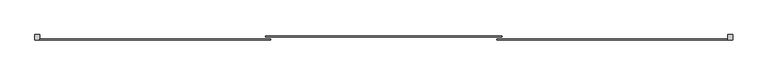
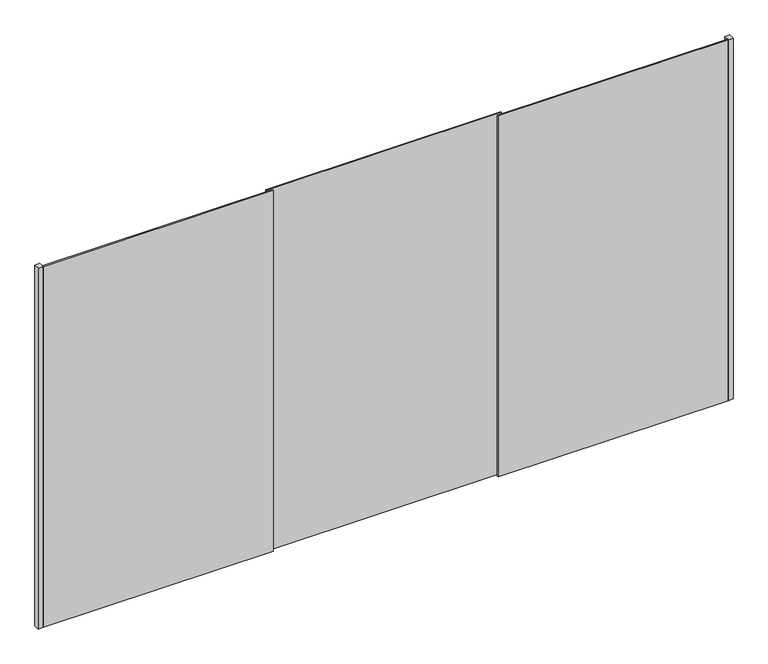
"""IFC4 building model written with IfcOpenShell, lengths in millimetres: furniture geometry, Puerta Closet corre 3 hojas : Puerta corrdiza 3 hojas PCLE-04."""

from ifc_helpers import new_model, si_unit, origin, origin_with_axes, place, context, project, spatial, polyline, outline, extrude, source, transform, mapped, element, save


def furniture_cfb692ec(model_context):
    return source(origin(), model_context, "Body", "SweptSolid", [
        extrude(outline(polyline([(2900.0, 86.6666667), (2870.0, 86.6666667), (2870.0, 120.0), (2900.0, 120.0), (2900.0, 86.6666667)])), origin_with_axes(), (0.0, 0.0, 1.0), 2300.0),
        extrude(outline(polyline([(2870.0, 86.6666667), (1483.3333333, 86.6666667), (1483.3333333, 93.3333333), (2870.0, 93.3333333), (2870.0, 86.6666667)])), origin_with_axes(), (0.0, 0.0, 1.0), 2300.0),
        extrude(outline(polyline([(1513.3333333, 106.6666667), (96.6666667, 106.6666667), (96.6666667, 113.3333333), (1513.3333333, 113.3333333), (1513.3333333, 106.6666667)])), origin_with_axes(), (0.0, 0.0, 1.0), 2300.0),
        extrude(outline(polyline([(126.6666667, 86.6666667), (-1260.0, 86.6666667), (-1260.0, 93.3333333), (126.6666667, 93.3333333), (126.6666667, 86.6666667)])), origin_with_axes(), (0.0, 0.0, 1.0), 2300.0),
        extrude(outline(polyline([(-1290.0, 86.6666667), (-1290.0, 120.0), (-1260.0, 120.0), (-1260.0, 86.6666667), (-1290.0, 86.6666667)])), origin_with_axes(), (0.0, 0.0, 1.0), 2300.0),
    ])


if __name__ == "__main__":
    model = new_model("IFC4")
    model_context = context("Model", 3, world=origin())
    ifc_project = project(units=[si_unit("LENGTHUNIT", "METRE", prefix="MILLI")], contexts=[model_context])
    site = spatial("IfcSite", under=ifc_project)
    building = spatial("IfcBuilding", under=site)
    placement = place(None, origin())
    furniture_shape = furniture_cfb692ec(model_context)
    element("IfcFurniture", 1, ObjectType="Puerta Closet corre 3 hojas : Puerta corrdiza 3 hojas PCLE-04", at=placement, inside=building, context=model_context, shape_type="MappedRepresentation", body=[
        mapped(furniture_shape, transform((0.0, 0.0, 0.0), x_axis=(1.0, 0.0, 0.0), y_axis=(0.0, 1.0, 0.0), z_axis=(0.0, 0.0, 1.0))),
    ])
    save(model, "model.ifc")
